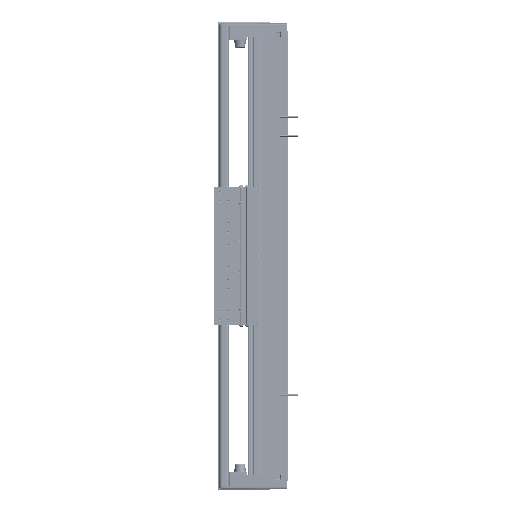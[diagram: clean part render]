
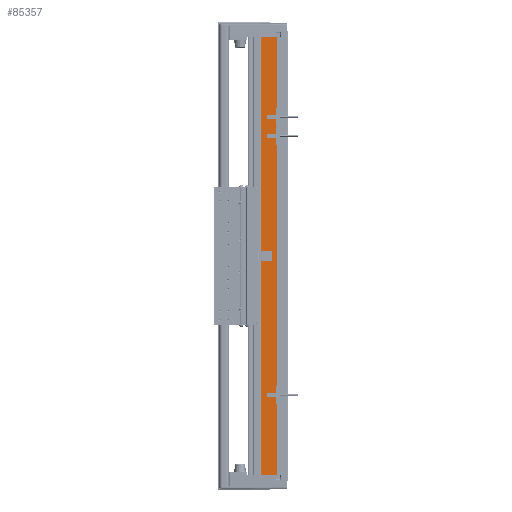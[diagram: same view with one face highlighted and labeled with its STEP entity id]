
A CAD part, left-side view. The second image highlights one B-rep face of the part: STEP entity #85357.
In plain terms, the highlighted planar face has unit normal (-1, 0, 0).
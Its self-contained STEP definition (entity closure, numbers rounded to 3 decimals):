
#788 = CARTESIAN_POINT ( 'NONE',  ( -97.5, 36.95, 300. ) ) ;
#1435 = ORIENTED_EDGE ( 'NONE', *, *, #19197, .F. ) ;
#1543 = CARTESIAN_POINT ( 'NONE',  ( -97.5, 36.95, -300. ) ) ;
#5524 = CARTESIAN_POINT ( 'NONE',  ( -97.5, 36.95, 300. ) ) ;
#12978 = DIRECTION ( 'NONE',  ( 0., -1., 0. ) ) ;
#13320 = LINE ( 'NONE', #72656, #54291 ) ;
#19197 = EDGE_CURVE ( 'NONE', #59105, #129715, #87724, .T. ) ;
#20762 = VECTOR ( 'NONE', #12978, 1000. ) ;
#23258 = CARTESIAN_POINT ( 'NONE',  ( -97.5, 36.95, 300. ) ) ;
#23488 = VECTOR ( 'NONE', #107944, 1000. ) ;
#25872 = CARTESIAN_POINT ( 'NONE',  ( -97.5, 36.95, 300. ) ) ;
#27717 = EDGE_CURVE ( 'NONE', #112867, #111052, #94507, .T. ) ;
#27800 = VECTOR ( 'NONE', #54265, 1000. ) ;
#30502 = FACE_OUTER_BOUND ( 'NONE', #125964, .T. ) ;
#34936 = ORIENTED_EDGE ( 'NONE', *, *, #27717, .T. ) ;
#45409 = CARTESIAN_POINT ( 'NONE',  ( -97.5, 14.45, -300. ) ) ;
#46548 = ORIENTED_EDGE ( 'NONE', *, *, #93404, .F. ) ;
#54265 = DIRECTION ( 'NONE',  ( 0., 0., -1. ) ) ;
#54291 = VECTOR ( 'NONE', #94176, 1000. ) ;
#59105 = VERTEX_POINT ( 'NONE', #25872 ) ;
#61463 = DIRECTION ( 'NONE',  ( 0., 1., 0. ) ) ;
#67010 = LINE ( 'NONE', #23258, #27800 ) ;
#69787 = ORIENTED_EDGE ( 'NONE', *, *, #132835, .T. ) ;
#70082 = CARTESIAN_POINT ( 'NONE',  ( -97.5, 14.45, 300. ) ) ;
#72656 = CARTESIAN_POINT ( 'NONE',  ( -97.5, 14.45, 300. ) ) ;
#82336 = PLANE ( 'NONE',  #82486 ) ;
#82486 = AXIS2_PLACEMENT_3D ( 'NONE', #788, #91087, #61463 ) ;
#84834 = CARTESIAN_POINT ( 'NONE',  ( -97.5, 36.95, -300. ) ) ;
#85357 = ADVANCED_FACE ( 'NONE', ( #30502 ), #82336, .F. ) ;
#87724 = LINE ( 'NONE', #5524, #23488 ) ;
#91087 = DIRECTION ( 'NONE',  ( 1., 0., 0. ) ) ;
#93404 = EDGE_CURVE ( 'NONE', #129715, #111052, #13320, .T. ) ;
#94176 = DIRECTION ( 'NONE',  ( 0., 0., -1. ) ) ;
#94507 = LINE ( 'NONE', #1543, #20762 ) ;
#107944 = DIRECTION ( 'NONE',  ( 0., -1., 0. ) ) ;
#111052 = VERTEX_POINT ( 'NONE', #45409 ) ;
#112867 = VERTEX_POINT ( 'NONE', #84834 ) ;
#125964 = EDGE_LOOP ( 'NONE', ( #34936, #46548, #1435, #69787 ) ) ;
#129715 = VERTEX_POINT ( 'NONE', #70082 ) ;
#132835 = EDGE_CURVE ( 'NONE', #59105, #112867, #67010, .T. ) ;
